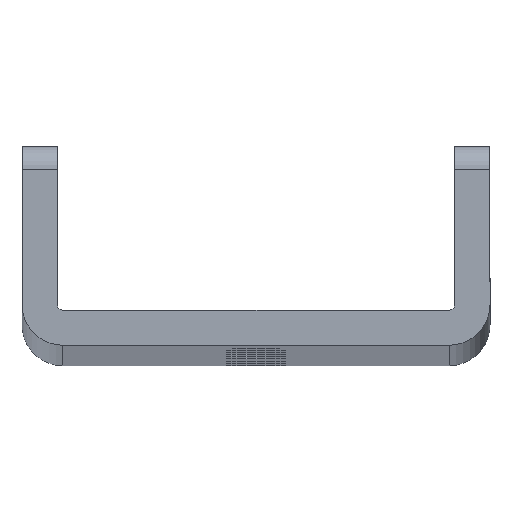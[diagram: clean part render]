
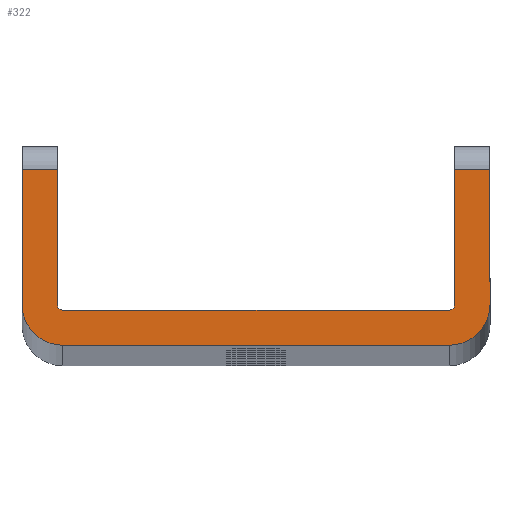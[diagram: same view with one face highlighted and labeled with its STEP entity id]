
A CAD part, top view. The second image highlights one B-rep face of the part: STEP entity #322.
In plain terms, the highlighted planar face has unit normal (0, 0, 1).
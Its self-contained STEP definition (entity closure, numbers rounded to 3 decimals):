
#65 = CARTESIAN_POINT ( 'NONE',  ( 16.5, 3., 1000. ) ) ;
#101 = CARTESIAN_POINT ( 'NONE',  ( 16.5, 0., 1000. ) ) ;
#152 = CIRCLE ( 'NONE', #2242, 0.5 ) ;
#172 = DIRECTION ( 'NONE',  ( 0., 0., 1. ) ) ;
#286 = VERTEX_POINT ( 'NONE', #570 ) ;
#291 = DIRECTION ( 'NONE',  ( 1., 0., 0. ) ) ;
#322 = ADVANCED_FACE ( 'NONE', ( #3438 ), #1397, .T. ) ;
#333 = ORIENTED_EDGE ( 'NONE', *, *, #1388, .T. ) ;
#431 = CARTESIAN_POINT ( 'NONE',  ( 20., 15., 1000. ) ) ;
#443 = ORIENTED_EDGE ( 'NONE', *, *, #3569, .T. ) ;
#447 = EDGE_CURVE ( 'NONE', #1821, #3614, #1489, .T. ) ;
#523 = CARTESIAN_POINT ( 'NONE',  ( -17., 3.5, 1000. ) ) ;
#570 = CARTESIAN_POINT ( 'NONE',  ( -17., 15., 1000. ) ) ;
#691 = EDGE_LOOP ( 'NONE', ( #3152, #1806, #3502, #2364, #992, #813, #2109, #1623, #2677, #333, #2969, #443 ) ) ;
#714 = VERTEX_POINT ( 'NONE', #1708 ) ;
#730 = VECTOR ( 'NONE', #3591, 1000. ) ;
#739 = VECTOR ( 'NONE', #2875, 1000. ) ;
#765 = EDGE_CURVE ( 'NONE', #1550, #286, #1840, .T. ) ;
#787 = DIRECTION ( 'NONE',  ( 1., 0., 0. ) ) ;
#793 = VERTEX_POINT ( 'NONE', #2080 ) ;
#813 = ORIENTED_EDGE ( 'NONE', *, *, #2228, .T. ) ;
#817 = CARTESIAN_POINT ( 'NONE',  ( -16.5, 3.5, 1000. ) ) ;
#822 = VERTEX_POINT ( 'NONE', #961 ) ;
#834 = VERTEX_POINT ( 'NONE', #3286 ) ;
#961 = CARTESIAN_POINT ( 'NONE',  ( -16.5, 3., 1000. ) ) ;
#992 = ORIENTED_EDGE ( 'NONE', *, *, #2269, .T. ) ;
#1000 = CARTESIAN_POINT ( 'NONE',  ( -16.5, 0., 1000. ) ) ;
#1028 = CARTESIAN_POINT ( 'NONE',  ( -20., 3.5, 1000. ) ) ;
#1029 = DIRECTION ( 'NONE',  ( 1., 0., 0. ) ) ;
#1140 = DIRECTION ( 'NONE',  ( 0., 0., -1. ) ) ;
#1146 = LINE ( 'NONE', #2840, #3621 ) ;
#1149 = EDGE_CURVE ( 'NONE', #286, #793, #1146, .T. ) ;
#1196 = LINE ( 'NONE', #1215, #739 ) ;
#1197 = DIRECTION ( 'NONE',  ( 0., -1., 0. ) ) ;
#1206 = CARTESIAN_POINT ( 'NONE',  ( 16.5, 0., 1000. ) ) ;
#1215 = CARTESIAN_POINT ( 'NONE',  ( -20., 3.5, 1000. ) ) ;
#1264 = CARTESIAN_POINT ( 'NONE',  ( -16.5, 3.5, 1000. ) ) ;
#1342 = VERTEX_POINT ( 'NONE', #65 ) ;
#1346 = EDGE_CURVE ( 'NONE', #3684, #1851, #2908, .T. ) ;
#1349 = VECTOR ( 'NONE', #2567, 1000. ) ;
#1388 = EDGE_CURVE ( 'NONE', #2524, #3684, #2050, .T. ) ;
#1397 = PLANE ( 'NONE',  #2701 ) ;
#1456 = AXIS2_PLACEMENT_3D ( 'NONE', #1825, #3552, #3273 ) ;
#1489 = LINE ( 'NONE', #1576, #730 ) ;
#1521 = EDGE_CURVE ( 'NONE', #714, #1342, #2476, .T. ) ;
#1550 = VERTEX_POINT ( 'NONE', #523 ) ;
#1576 = CARTESIAN_POINT ( 'NONE',  ( 20., 17., 1000. ) ) ;
#1623 = ORIENTED_EDGE ( 'NONE', *, *, #1149, .T. ) ;
#1673 = EDGE_CURVE ( 'NONE', #834, #714, #3260, .T. ) ;
#1708 = CARTESIAN_POINT ( 'NONE',  ( 17., 3.5, 1000. ) ) ;
#1728 = DIRECTION ( 'NONE',  ( -1., 0., 0. ) ) ;
#1806 = ORIENTED_EDGE ( 'NONE', *, *, #2817, .T. ) ;
#1821 = VERTEX_POINT ( 'NONE', #3211 ) ;
#1825 = CARTESIAN_POINT ( 'NONE',  ( 16.5, 3.5, 1000. ) ) ;
#1840 = LINE ( 'NONE', #2059, #2521 ) ;
#1851 = VERTEX_POINT ( 'NONE', #101 ) ;
#2004 = CARTESIAN_POINT ( 'NONE',  ( 17., 15., 1000. ) ) ;
#2022 = LINE ( 'NONE', #2004, #1349 ) ;
#2050 = CIRCLE ( 'NONE', #3679, 3.5 ) ;
#2059 = CARTESIAN_POINT ( 'NONE',  ( -17., 17., 1000. ) ) ;
#2080 = CARTESIAN_POINT ( 'NONE',  ( -20., 15., 1000. ) ) ;
#2109 = ORIENTED_EDGE ( 'NONE', *, *, #765, .T. ) ;
#2228 = EDGE_CURVE ( 'NONE', #822, #1550, #152, .T. ) ;
#2242 = AXIS2_PLACEMENT_3D ( 'NONE', #1264, #1140, #787 ) ;
#2269 = EDGE_CURVE ( 'NONE', #1342, #822, #2773, .T. ) ;
#2364 = ORIENTED_EDGE ( 'NONE', *, *, #1521, .T. ) ;
#2403 = DIRECTION ( 'NONE',  ( 0., 1., 0. ) ) ;
#2476 = CIRCLE ( 'NONE', #2593, 0.5 ) ;
#2493 = CARTESIAN_POINT ( 'NONE',  ( -16.5, 3., 1000. ) ) ;
#2511 = DIRECTION ( 'NONE',  ( -1., 0., 0. ) ) ;
#2521 = VECTOR ( 'NONE', #2403, 1000. ) ;
#2524 = VERTEX_POINT ( 'NONE', #1028 ) ;
#2567 = DIRECTION ( 'NONE',  ( -1., 0., 0. ) ) ;
#2593 = AXIS2_PLACEMENT_3D ( 'NONE', #3136, #3117, #291 ) ;
#2650 = VECTOR ( 'NONE', #2511, 1000. ) ;
#2671 = DIRECTION ( 'NONE',  ( 1., 0., 0. ) ) ;
#2677 = ORIENTED_EDGE ( 'NONE', *, *, #2991, .T. ) ;
#2701 = AXIS2_PLACEMENT_3D ( 'NONE', #817, #3108, #3707 ) ;
#2773 = LINE ( 'NONE', #2493, #2650 ) ;
#2817 = EDGE_CURVE ( 'NONE', #3614, #834, #2022, .T. ) ;
#2840 = CARTESIAN_POINT ( 'NONE',  ( -20., 15., 1000. ) ) ;
#2875 = DIRECTION ( 'NONE',  ( 0., -1., 0. ) ) ;
#2908 = LINE ( 'NONE', #1206, #3194 ) ;
#2969 = ORIENTED_EDGE ( 'NONE', *, *, #1346, .T. ) ;
#2991 = EDGE_CURVE ( 'NONE', #793, #2524, #1196, .T. ) ;
#2992 = CARTESIAN_POINT ( 'NONE',  ( 17., 3.5, 1000. ) ) ;
#3087 = CIRCLE ( 'NONE', #1456, 3.5 ) ;
#3108 = DIRECTION ( 'NONE',  ( 0., 0., 1. ) ) ;
#3117 = DIRECTION ( 'NONE',  ( 0., 0., -1. ) ) ;
#3136 = CARTESIAN_POINT ( 'NONE',  ( 16.5, 3.5, 1000. ) ) ;
#3152 = ORIENTED_EDGE ( 'NONE', *, *, #447, .T. ) ;
#3194 = VECTOR ( 'NONE', #2671, 1000. ) ;
#3211 = CARTESIAN_POINT ( 'NONE',  ( 20., 3.5, 1000. ) ) ;
#3260 = LINE ( 'NONE', #2992, #3380 ) ;
#3273 = DIRECTION ( 'NONE',  ( -1., 0., 0. ) ) ;
#3286 = CARTESIAN_POINT ( 'NONE',  ( 17., 15., 1000. ) ) ;
#3357 = CARTESIAN_POINT ( 'NONE',  ( -16.5, 3.5, 1000. ) ) ;
#3380 = VECTOR ( 'NONE', #1197, 1000. ) ;
#3438 = FACE_OUTER_BOUND ( 'NONE', #691, .T. ) ;
#3502 = ORIENTED_EDGE ( 'NONE', *, *, #1673, .T. ) ;
#3552 = DIRECTION ( 'NONE',  ( 0., 0., 1. ) ) ;
#3569 = EDGE_CURVE ( 'NONE', #1851, #1821, #3087, .T. ) ;
#3591 = DIRECTION ( 'NONE',  ( 0., 1., 0. ) ) ;
#3614 = VERTEX_POINT ( 'NONE', #431 ) ;
#3621 = VECTOR ( 'NONE', #1728, 1000. ) ;
#3679 = AXIS2_PLACEMENT_3D ( 'NONE', #3357, #172, #1029 ) ;
#3684 = VERTEX_POINT ( 'NONE', #1000 ) ;
#3707 = DIRECTION ( 'NONE',  ( 1., 0., 0. ) ) ;
